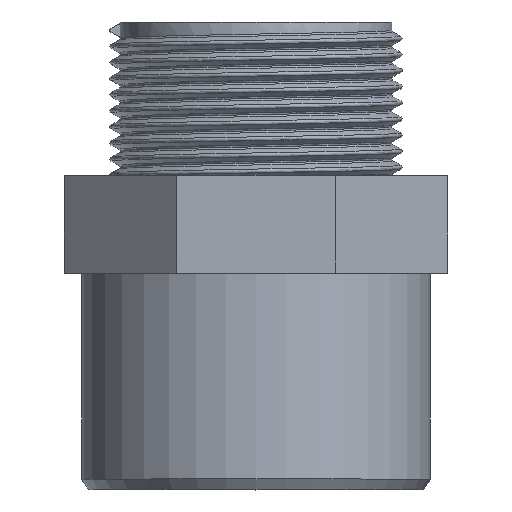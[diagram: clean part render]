
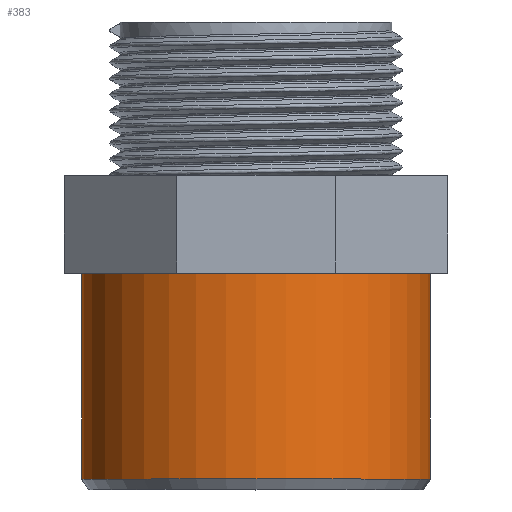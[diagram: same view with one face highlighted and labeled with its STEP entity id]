
A CAD part, top view. The second image highlights one B-rep face of the part: STEP entity #383.
In plain terms, the highlighted cylindrical face has radius 25 mm (diameter 50 mm), a full revolution.
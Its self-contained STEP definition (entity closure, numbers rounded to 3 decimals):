
#100=CYLINDRICAL_SURFACE('',#413,25.);
#106=FACE_BOUND('',#145,.T.);
#117=FACE_OUTER_BOUND('',#144,.T.);
#144=EDGE_LOOP('',(#281));
#145=EDGE_LOOP('',(#282));
#179=CIRCLE('',#411,25.);
#181=CIRCLE('',#414,25.);
#192=VERTEX_POINT('',#543);
#194=VERTEX_POINT('',#548);
#228=EDGE_CURVE('',#192,#192,#179,.T.);
#230=EDGE_CURVE('',#194,#194,#181,.T.);
#281=ORIENTED_EDGE('',*,*,#230,.F.);
#282=ORIENTED_EDGE('',*,*,#228,.F.);
#383=ADVANCED_FACE('',(#117,#106),#100,.T.);
#411=AXIS2_PLACEMENT_3D('',#544,#448,#449);
#413=AXIS2_PLACEMENT_3D('',#547,#452,#453);
#414=AXIS2_PLACEMENT_3D('',#549,#454,#455);
#448=DIRECTION('center_axis',(0.,-1.,0.));
#449=DIRECTION('ref_axis',(-1.,0.,0.));
#452=DIRECTION('center_axis',(0.,-1.,0.));
#453=DIRECTION('ref_axis',(-1.,0.,0.));
#454=DIRECTION('center_axis',(0.,1.,0.));
#455=DIRECTION('ref_axis',(-1.,0.,0.));
#543=CARTESIAN_POINT('',(25.,-36.5,0.));
#544=CARTESIAN_POINT('Origin',(0.,-36.5,0.));
#547=CARTESIAN_POINT('Origin',(0.,-7.,0.));
#548=CARTESIAN_POINT('',(25.,-7.,0.));
#549=CARTESIAN_POINT('Origin',(0.,-7.,0.));
